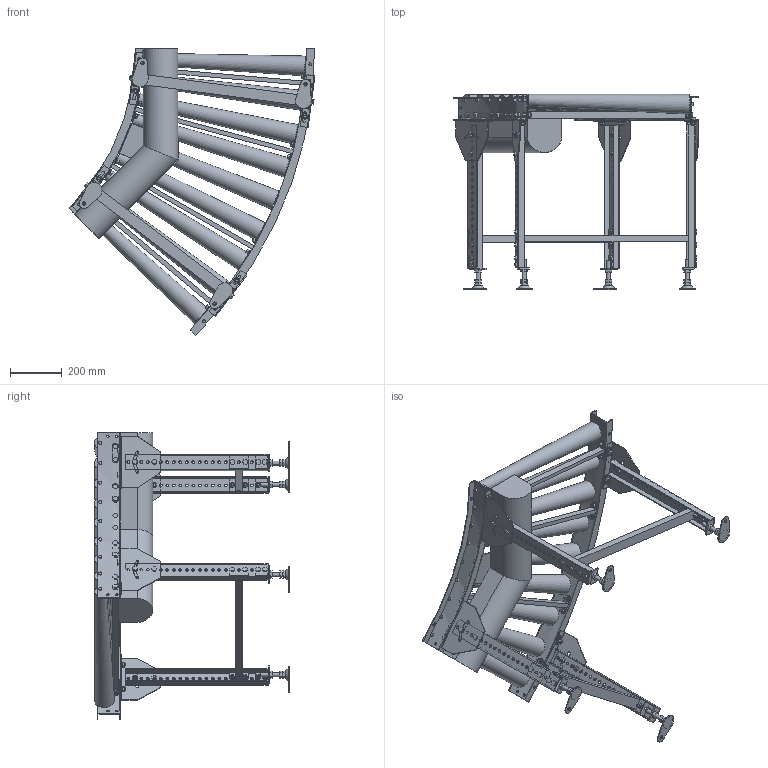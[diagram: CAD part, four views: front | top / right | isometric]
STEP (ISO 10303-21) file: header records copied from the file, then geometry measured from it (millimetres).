
FILE_DESCRIPTION( (''), '2;1');
FILE_NAME ('WEB-MCD-50-630-100-45°-C9.stp','2026-02-20T12:18:06',(''),(''),'spGate 20.6.2 (****-****-****-****)','','');
FILE_SCHEMA (('AUTOMOTIVE_DESIGN'));
Length unit declared in the file: millimetre
Products named in the file (31): WEB-MCD-50-630-100-45_-C9; TEMP_X_T-prt0; TEMP_X_T-prt1; TEMP_X_T-prt2; TEMP_X_T-prt3; TEMP_X_T-prt4; TEMP_X_T-prt5; TEMP_X_T-prt6; TEMP_X_T-prt7; TEMP_X_T-prt8; TEMP_X_T-prt9; TEMP_X_T-prt10; TEMP_X_T-prt11; TEMP_X_T-prt12; TEMP_X_T-prt13; TEMP_X_T-prt14; TEMP_X_T-prt15; TEMP_X_T-prt16; TEMP_X_T-prt17; TEMP_X_T-prt18; TEMP_X_T-prt19; TEMP_X_T-prt20; TEMP_X_T-prt21; TEMP_X_T-prt22; TEMP_X_T-prt23; TEMP_X_T-prt24; TEMP_X_T-prt25; TEMP_X_T-prt26; TEMP_X_T-prt27; TEMP_X_T-prt28; TEMP_X_T-prt29
Assembly tree (30 placements, depth 2):
  WEB-MCD-50-630-100-45_-C9
    TEMP_X_T-prt0
    TEMP_X_T-prt1
    TEMP_X_T-prt2
    TEMP_X_T-prt3
    TEMP_X_T-prt4
    TEMP_X_T-prt5
    TEMP_X_T-prt6
    TEMP_X_T-prt7
    TEMP_X_T-prt8
    TEMP_X_T-prt9
    TEMP_X_T-prt10
    TEMP_X_T-prt11
    TEMP_X_T-prt12
    TEMP_X_T-prt13
    TEMP_X_T-prt14
    TEMP_X_T-prt15
    TEMP_X_T-prt16
    TEMP_X_T-prt17
    TEMP_X_T-prt18
    TEMP_X_T-prt19
    TEMP_X_T-prt20
    TEMP_X_T-prt21
    TEMP_X_T-prt22
    TEMP_X_T-prt23
    TEMP_X_T-prt24
    TEMP_X_T-prt25
    TEMP_X_T-prt26
    TEMP_X_T-prt27
    TEMP_X_T-prt28
    TEMP_X_T-prt29
Bounding box: 945.88 x 750 x 1103.09 mm (x, y, z)
Volume: 34248865.5 mm3; surface area: 3409022 mm2
Topology: 30 solids, 50 shells, 2199 faces, 5302 edges, 3409 vertices
Faces by surface type: plane 1838, cylinder 348, bspline 13
Full cylindrical faces by diameter (mm): 8.5 x8, 10 x60, 10.5 x92, 11 x2, 12 x18, 13 x4, 14 x6, 16 x4, 18.4 x42, 18.5 x8, 21 x30
Entity records: 110829 total; most frequent: CARTESIAN_POINT 13888, DIRECTION 11027, ORIENTED_EDGE 10604, COLOUR_RGB 7531, PRESENTATION_STYLE_ASSIGNMENT 7531, STYLED_ITEM 7531, EDGE_CURVE 5302, DRAUGHTING_PRE_DEFINED_CURVE_FONT 5302
